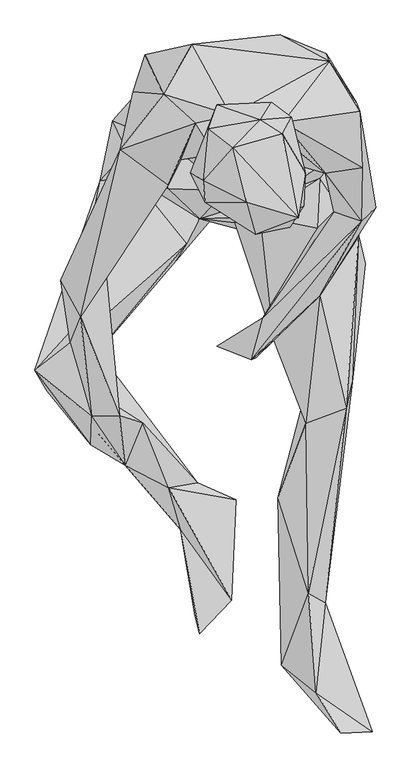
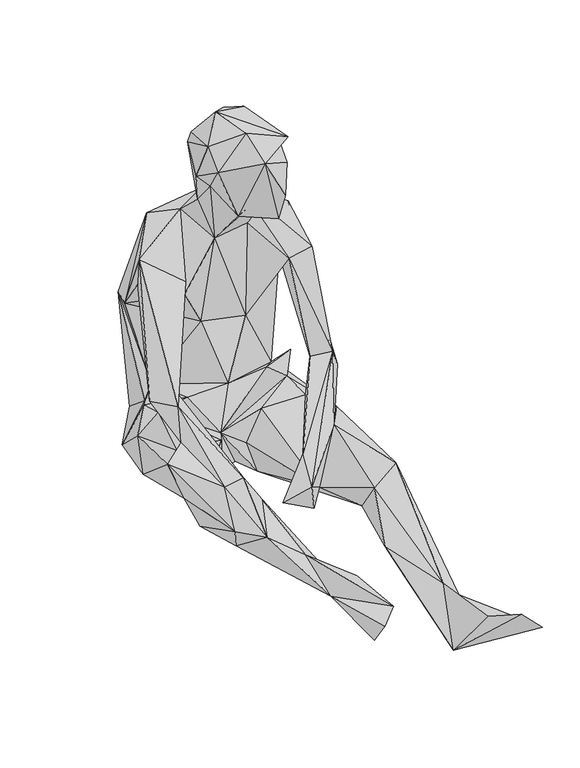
"""IFC4 building model written with IfcOpenShell, lengths in millimetres: geographic element geometry, Enscape AssetDefinition - Ryan Sitting 02 : Enscape AssetDefinition - Ryan Sitting 02."""

from ifc_helpers import new_model, si_unit, origin, place, context, project, spatial, faceted_brep, source, transform, mapped, element, save


def geographic_element_a2d18596(model_context):
    return source(origin(), model_context, "Body", "Brep", [
        faceted_brep([(-154.1559398, 408.0910087, 113.8196141), (-150.8002281, 460.0271285, 369.1177368), (55.0912581, 484.3622446, 227.3288965), (-161.3483131, 333.7615728, 175.2810329), (-170.3427583, 399.8329937, 382.9376698), (-141.8776363, 339.8682773, 207.7484578), (-120.8732799, 395.6161141, 596.5673327), (69.2095682, 492.190212, 429.8756719), (-73.9432797, 476.9423604, 524.5678425), (-204.2500675, 351.8742025, 67.9622814), (-180.128485, 302.018553, 190.0758743), (-44.9652672, 390.3276026, 4.6987874), (-195.254609, 281.8514109, 33.4572792), (-16.8204401, 429.8756719, 44.7796695), (-224.1218686, 253.7415028, 157.2073102), (-113.6370078, 240.7836467, 223.5850394), (-171.5202034, 260.5806291, 193.2948679), (-273.2600868, 8.4187016, 286.416471), (-331.2440217, -55.2559011, 310.4811609), (-83.2909718, 151.2362808, 159.1231525), (-235.1389229, 18.1964505, 282.8133106), (-61.6400279, 191.7322576, 144.8691338), (-17.8731512, 238.0236536, 226.3879478), (-48.2012331, 296.4955866, 357.6217294), (54.8288301, 291.8696105, 339.8393691), (135.0793988, 324.5745301, 174.2732227), (71.4517012, 233.7439507, 239.981398), (-13.5724992, 301.5066683, 551.7687201), (-92.5538391, 288.1407142, 446.5135038), (-191.6274875, 304.6069145, 557.3506355), (-177.1679223, 334.1616988, 473.7742543), (-113.4005263, 246.9851673, 509.9346638), (-68.8124374, 347.7042615, 617.7443266), (-253.483057, 114.4352704, 330.1075101), (-289.0577316, 91.2825987, 364.8440242), (-256.0225427, 31.8667367, 375.3611445), (-215.0735408, 102.8085425, 350.2627313), (-46.3043563, 313.1833076, 654.7169685), (-10.8933225, 360.9913886, 641.3429976), (-33.4562846, 377.8397739, 754.8722625), (-42.995546, 267.5983906, 713.1180167), (-76.4897466, 267.3259676, 750.7482171), (104.803212, 265.1048005, 660.5303288), (-5.2665533, 217.6020443, 654.6610594), (75.9948269, 320.6680417, 547.925055), (-52.6415817, 219.115749, 780.4157138), (-55.8246672, 253.7464797, 825.6734014), (29.1127227, 166.4462239, 806.2496185), (14.4835189, 218.9560831, 856.1451435), (76.3380826, 192.3838556, 635.7492208), (85.4063705, 178.3553362, 699.9655962), (108.7835655, 213.4500593, 754.0850043), (111.5086377, 266.7342424, 804.345727), (99.6304527, 193.831712, 832.5204849), (-7.3180939, 308.2200885, 863.8863564), (73.8764256, 330.5754662, 835.9640241), (78.2668889, 319.3868101, 696.3953972), (88.4627178, 357.9021096, 739.0187383), (74.4082704, 349.8685658, 623.1745481), (37.8497317, 353.6004722, 832.0236206), (55.8416285, 382.3778927, 739.946723), (-47.3999754, 338.7317657, 809.2241287), (150.590688, 448.970139, 511.986196), (200.1689374, 367.8943813, 531.1365724), (194.3635494, 382.5095892, 440.7071173), (145.5745846, 461.8760943, 364.5386696), (123.5803962, 408.0830216, 82.4777409), (176.3636768, 364.5905554, 406.0165286), (226.4088988, 209.883824, 206.093058), (144.157663, 266.1974132, 467.4090743), (157.4068815, 203.5046667, 253.7265122), (202.1955252, 188.3256882, 260.3291869), (134.9786222, 65.9686178, 172.4042892), (131.0870796, 176.8236756, 182.514295), (41.3042232, 30.1704258, 154.0032774), (204.1033804, 275.4912078, 471.1210132), (22.9221787, -38.3067392, 119.5910648), (59.761107, -6.3801329, 85.8923122), (-33.8075198, -16.0181839, 85.0182101), (30.0856084, -34.8642208, 60.5693497), (37.9375443, 195.4162717, 169.6163416), (112.141259, -141.8706477, 148.6209631), (-3.8386567, 185.8610213, 103.406243), (13.6972284, 171.3974625, 34.8801874), (112.1562272, -89.7828564, 71.1224154), (134.3939006, 257.9493523, 180.5685312), (110.3850752, 125.1689494, 9.553236), (3.4505005, 245.2938557, 17.796319), (-100.4047692, 123.3658716, 104.1137055), (-107.7009141, 223.4263718, 7.3600034), (-262.2799277, -23.1726337, 184.7394556), (-227.5873423, -25.1213983, 210.796833), (-213.7404382, -103.338398, 244.2142069), (-65.1074871, -239.3717319, 68.9980313), (-261.064589, -67.763716, 137.0201856), (-311.1207783, -89.7539183, 239.0913367), (-240.3695434, -176.9643575, 181.9654852), (-227.8288007, -159.1850072, 131.8703741), (-238.5325432, -130.4584444, 265.3223276), (-183.5310906, -210.5334103, 168.6933488), (-273.2600868, -10.412368, 316.8453276), (-192.6053762, -129.9565434, 273.3947635), (-154.949218, -140.8977658, 211.8635178), (-112.827763, -246.9761968, 121.5278581), (-92.6865488, -316.2845671, 52.8102182), (-2.0425604, -266.9517696, 42.4267873), (-9.443474, -431.2606454, 68.3294907), (-69.5488378, -456.261307, 18.6714176), (-62.0211959, -485.8310521, 69.5528239), (102.2477597, 402.9042721, 36.5146361), (148.7067789, 268.3317959, 16.4711997), (188.1370991, -75.1177296, 102.140002), (208.7363154, 118.9684197, 93.8540027), (167.2215313, 359.6153557, 84.6999064), (158.7848812, 329.7203481, 153.9932936), (198.4167397, 163.7870222, 137.4372691), (168.7492281, 303.1291366, 206.8763524), (177.792564, -117.2830909, 173.7433672), (66.5004626, -263.7437582, 90.8176005), (116.0747111, -420.0051129, 75.703457), (143.4611827, -435.0653887, 46.3712141), (128.5945028, -581.9700956, 85.4931772), (71.8228891, -537.1873975, -7.2093308), (113.399528, -214.8719728, 13.3938873), (121.2335005, -534.9771976, 5.4431693), (220.9537625, -646.1685896, 65.1623681), (169.3050116, -647.9895711, 116.6085526)], [[[0, 1, 2]], [[1, 0, 3]], [[4, 1, 5]], [[6, 1, 4]], [[2, 1, 7]], [[8, 1, 6]], [[8, 7, 1]], [[3, 5, 1]], [[3, 0, 9]], [[9, 10, 3]], [[10, 5, 3]], [[9, 11, 12]], [[13, 9, 0]], [[11, 9, 13]], [[9, 14, 10]], [[14, 9, 12]], [[5, 10, 15]], [[16, 15, 10]], [[16, 10, 14]], [[16, 14, 17]], [[14, 12, 18]], [[18, 17, 14]], [[19, 16, 20]], [[17, 20, 16]], [[15, 16, 21]], [[21, 16, 19]], [[15, 21, 22]], [[22, 5, 15]], [[22, 23, 5]], [[24, 22, 25]], [[22, 24, 23]], [[22, 26, 25]], [[22, 21, 26]], [[5, 23, 4]], [[24, 27, 23]], [[23, 27, 28]], [[4, 23, 28]], [[29, 6, 4]], [[29, 4, 30]], [[28, 30, 4]], [[28, 31, 30]], [[32, 28, 27]], [[28, 32, 31]], [[31, 33, 30]], [[30, 33, 34]], [[29, 30, 34]], [[31, 29, 35]], [[36, 31, 35]], [[31, 32, 29]], [[33, 31, 36]], [[32, 6, 29]], [[35, 29, 34]], [[32, 27, 37]], [[32, 37, 38]], [[38, 6, 32]], [[37, 39, 38]], [[40, 37, 27]], [[41, 39, 37]], [[41, 37, 40]], [[27, 42, 43]], [[40, 27, 43]], [[44, 27, 24]], [[27, 44, 42]], [[45, 40, 43]], [[45, 41, 40]], [[46, 39, 41]], [[46, 41, 45]], [[47, 45, 43]], [[46, 45, 48]], [[47, 48, 45]], [[42, 49, 43]], [[47, 43, 49]], [[50, 49, 42]], [[47, 49, 50]], [[47, 51, 52]], [[47, 52, 53]], [[53, 48, 47]], [[47, 50, 51]], [[54, 48, 53]], [[46, 48, 54]], [[54, 53, 55]], [[55, 53, 52]], [[51, 56, 52]], [[56, 57, 52]], [[57, 55, 52]], [[56, 51, 42]], [[42, 51, 50]], [[56, 42, 58]], [[56, 58, 57]], [[55, 57, 59]], [[60, 59, 57]], [[57, 58, 60]], [[54, 55, 59]], [[54, 59, 61]], [[46, 54, 61]], [[59, 60, 39]], [[39, 61, 59]], [[38, 60, 58]], [[38, 39, 60]], [[46, 61, 39]], [[38, 58, 62]], [[38, 62, 8]], [[6, 38, 8]], [[8, 62, 7]], [[63, 62, 58]], [[62, 63, 64]], [[62, 65, 7]], [[65, 62, 64]], [[2, 7, 65]], [[66, 65, 25]], [[67, 25, 65]], [[2, 65, 66]], [[64, 67, 65]], [[68, 64, 63]], [[64, 68, 67]], [[24, 67, 69]], [[24, 25, 67]], [[67, 70, 69]], [[70, 67, 68]], [[68, 63, 71]], [[68, 71, 72]], [[70, 68, 73]], [[73, 68, 72]], [[73, 74, 70]], [[70, 71, 69]], [[71, 70, 74]], [[71, 63, 75]], [[72, 71, 76]], [[76, 71, 74]], [[69, 71, 75]], [[74, 73, 77]], [[77, 78, 74]], [[74, 78, 76]], [[77, 72, 76]], [[79, 76, 78]], [[79, 77, 76]], [[77, 79, 78]], [[73, 80, 77]], [[81, 72, 77]], [[82, 83, 77]], [[77, 84, 81]], [[77, 83, 84]], [[82, 77, 80]], [[73, 85, 80]], [[21, 80, 85]], [[21, 82, 80]], [[21, 83, 82]], [[84, 83, 86]], [[21, 87, 83]], [[86, 83, 87]], [[26, 21, 85]], [[87, 21, 88]], [[21, 19, 88]], [[87, 89, 11]], [[11, 86, 87]], [[87, 88, 89]], [[88, 90, 89]], [[91, 88, 19]], [[88, 91, 90]], [[91, 19, 20]], [[91, 92, 93]], [[92, 91, 20]], [[93, 94, 91]], [[90, 91, 94]], [[12, 90, 95]], [[94, 95, 90]], [[90, 12, 89]], [[89, 12, 11]], [[18, 12, 95]], [[94, 96, 95]], [[18, 95, 96]], [[94, 93, 97]], [[96, 94, 97]], [[98, 96, 99]], [[96, 97, 99]], [[98, 18, 96]], [[18, 98, 100]], [[17, 18, 100]], [[98, 35, 100]], [[98, 99, 101]], [[35, 98, 101]], [[34, 33, 100]], [[35, 34, 100]], [[20, 100, 33]], [[100, 20, 17]], [[36, 35, 101]], [[92, 36, 101]], [[101, 99, 102]], [[102, 92, 101]], [[36, 92, 20]], [[36, 20, 33]], [[92, 102, 93]], [[103, 93, 102]], [[102, 99, 103]], [[93, 104, 97]], [[105, 104, 93]], [[93, 103, 105]], [[106, 105, 103]], [[106, 103, 104]], [[103, 99, 104]], [[97, 104, 99]], [[104, 105, 107]], [[108, 106, 104]], [[108, 104, 107]], [[106, 107, 105]], [[107, 106, 108]], [[109, 86, 11]], [[11, 13, 109]], [[109, 110, 86]], [[86, 111, 84]], [[111, 86, 112]], [[86, 110, 112]], [[13, 66, 109]], [[113, 109, 66]], [[109, 113, 110]], [[13, 0, 66]], [[25, 114, 66]], [[0, 2, 66]], [[66, 114, 113]], [[115, 113, 114]], [[115, 110, 113]], [[115, 114, 85]], [[25, 85, 114]], [[25, 26, 116]], [[116, 85, 25]], [[85, 73, 115]], [[85, 116, 26]], [[73, 72, 115]], [[117, 72, 81]], [[117, 115, 72]], [[81, 84, 118]], [[119, 117, 81]], [[81, 118, 119]], [[120, 117, 119]], [[120, 111, 117]], [[117, 111, 115]], [[120, 119, 121]], [[119, 122, 121]], [[118, 122, 119]], [[118, 123, 122]], [[118, 84, 123]], [[84, 111, 123]], [[123, 111, 124]], [[111, 112, 115]], [[111, 120, 124]], [[121, 125, 120]], [[120, 125, 124]], [[121, 122, 126]], [[125, 121, 126]], [[126, 122, 125]], [[124, 125, 122]], [[122, 123, 124]], [[112, 110, 115]], [[69, 58, 44]], [[44, 24, 69]], [[58, 69, 75]], [[63, 58, 75]], [[42, 44, 58]]]),
    ])


if __name__ == "__main__":
    model = new_model("IFC4")
    model_context = context("Model", 3, world=origin())
    ifc_project = project(units=[si_unit("LENGTHUNIT", "METRE", prefix="MILLI")], contexts=[model_context])
    site = spatial("IfcSite", under=ifc_project)
    building = spatial("IfcBuilding", under=site)
    placement = place(None, origin())
    geographic_element_shape = geographic_element_a2d18596(model_context)
    element("IfcGeographicElement", 1, ObjectType="Enscape AssetDefinition - Ryan Sitting 02 : Enscape AssetDefinition - Ryan Sitting 02", at=placement, inside=building, context=model_context, shape_type="MappedRepresentation", body=[
        mapped(geographic_element_shape, transform((0.0, 0.0, 0.0), x_axis=(1.0, 0.0, 0.0), y_axis=(0.0, 1.0, 0.0), z_axis=(0.0, 0.0, 1.0))),
    ])
    save(model, "model.ifc")
